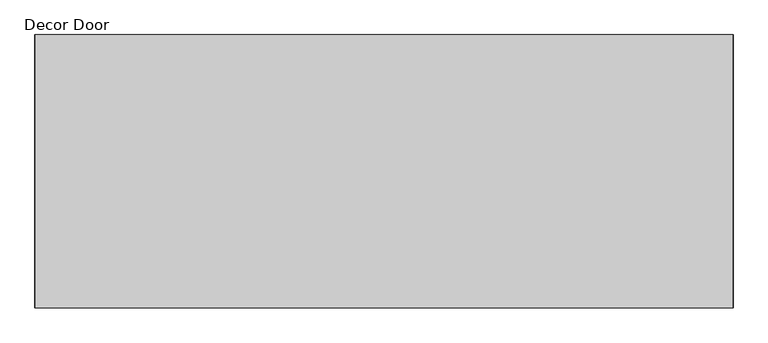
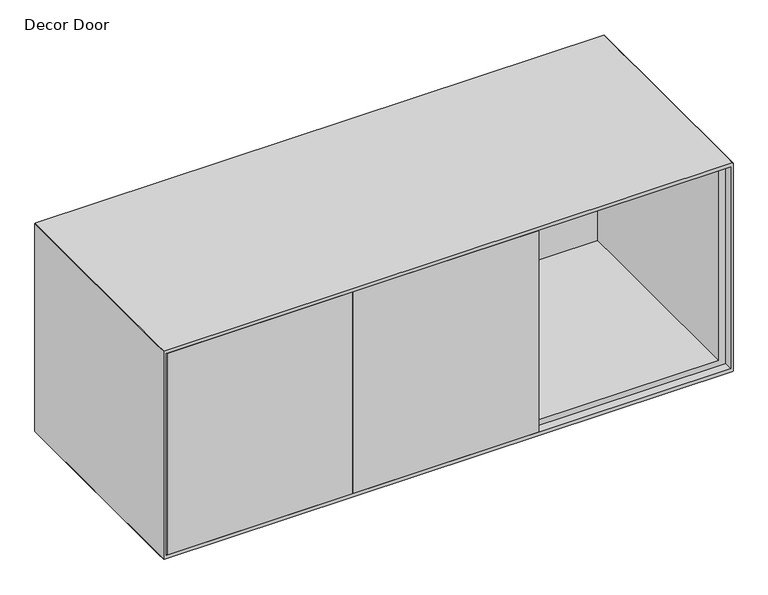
"""IFC4 building model written with IfcOpenShell, lengths in millimetres: furniture geometry, Steelcase EMEA - Volum Art - Cupboard - Credenza - Hinged Door : Decor Door."""

import ifcopenshell
import ifcopenshell.guid

model = None  # the IFC model being written
_history = None  # IfcOwnerHistory: only IFC2X3 demands one
_inside = {}  # id of a spatial element -> (the spatial element, [elements in it])
_under = {}  # id of a project, library or spatial element -> (it, [spatial elements below it])
_declared = {}  # id of a project -> (the project, [libraries it declares])
_typed = {}  # id of a type object -> (the type object, [elements of that type])
_made_of = {}  # id of a material, layer set ... -> (it, [elements and type objects made of it])


def new_model(schema):
    """Start an empty IFC model of exactly this schema.

    Asked for "IFC4X3", IfcOpenShell would pick the latest addendum, in which some entities
    have other attributes; the version numbers below select the first issue.
    IFC2X3 requires an IfcOwnerHistory on every rooted entity: one is made here for all.
    """
    global model, _history
    if schema == "IFC4X3":
        model = ifcopenshell.file(schema_version=(4, 3, 0, 0))
    else:
        model = ifcopenshell.file(schema=schema)
    _inside.clear()
    _under.clear()
    _declared.clear()
    _typed.clear()
    _made_of.clear()
    _history = None
    if model.schema == "IFC2X3":
        org = make("IfcOrganization", Name="unknown")
        user = make(
            "IfcPersonAndOrganization",
            ThePerson=make("IfcPerson", FamilyName="unknown"),
            TheOrganization=org,
        )
        app = make(
            "IfcApplication",
            ApplicationDeveloper=org,
            Version="unknown",
            ApplicationFullName="unknown",
            ApplicationIdentifier="unknown",
        )
        _history = make(
            "IfcOwnerHistory",
            OwningUser=user,
            OwningApplication=app,
            ChangeAction="ADDED",
            CreationDate=0,
        )
    return model


def make(cls, **values):
    """One entity of the class cls with the attributes given. An attribute that is None is left unset."""
    return model.create_entity(
        cls, **{name: value for name, value in values.items() if value is not None}
    )


def rooted(cls, **values):
    """An entity with a GlobalId (a new one), such as an element, a storey or a relation."""
    return make(cls, GlobalId=ifcopenshell.guid.new(), OwnerHistory=_history, **values)


def si_unit(unit_type, name, prefix=None):
    """IfcSIUnit, for example si_unit("LENGTHUNIT", "METRE", prefix="MILLI")."""
    return make("IfcSIUnit", UnitType=unit_type, Prefix=prefix, Name=name)


def assignment(units):
    """IfcUnitAssignment: the units of a project."""
    return None if units is None else make("IfcUnitAssignment", Units=units)


def point(xyz):
    """IfcCartesianPoint."""
    return None if xyz is None else make("IfcCartesianPoint", Coordinates=xyz)


def direction(xyz):
    """IfcDirection."""
    return None if xyz is None else make("IfcDirection", DirectionRatios=xyz)


def frame(location, z_axis=None, x_axis=None):
    """IfcAxis2Placement3D, a coordinate frame: its origin and axes. An axis left out is left unset."""
    return make(
        "IfcAxis2Placement3D",
        Location=point(location),
        Axis=direction(z_axis),
        RefDirection=direction(x_axis),
    )


def origin():
    """The frame at (0, 0, 0) with its axes left unset."""
    return frame((0.0, 0.0, 0.0))


def place(relative_to, where):
    """IfcLocalPlacement: puts the frame where relative to a parent placement (None: the world)."""
    return make(
        "IfcLocalPlacement", PlacementRelTo=relative_to, RelativePlacement=where
    )


def context(
    kind, dimensions, precision=None, world=None, true_north=None, identifier=None
):
    """IfcGeometricRepresentationContext, for example the 3D "Model" context."""
    return make(
        "IfcGeometricRepresentationContext",
        ContextIdentifier=identifier,
        ContextType=kind,
        CoordinateSpaceDimension=dimensions,
        Precision=precision,
        WorldCoordinateSystem=world,
        TrueNorth=true_north,
    )


def project(units=None, contexts=None):
    """IfcProject with its units and contexts."""
    return rooted(
        "IfcProject",
        Name="project",
        RepresentationContexts=contexts,
        UnitsInContext=assignment(units),
    )


def spatial(cls, under=None, at=None, **own):
    """A site, building, storey or space (cls), placed at a placement, below another one or the project."""
    s = rooted(cls, ObjectPlacement=at, **own)
    if under is not None:
        _under.setdefault(under.id(), (under, []))[1].append(s)
    return s


def polyline(points):
    """IfcPolyline through the points."""
    return make("IfcPolyline", Points=[point(p) for p in points])


def circle_curve(where, radius):
    """IfcCircle in the frame where."""
    return make("IfcCircle", Position=where, Radius=radius)


def outline(outer, holes=None, kind="AREA"):
    """IfcArbitraryClosedProfileDef: a profile drawn as a closed curve; with holes, ...WithVoids."""
    if holes is None:
        return make("IfcArbitraryClosedProfileDef", ProfileType=kind, OuterCurve=outer)
    return make(
        "IfcArbitraryProfileDefWithVoids",
        ProfileType=kind,
        OuterCurve=outer,
        InnerCurves=holes,
    )


def extrude(swept, where, along, depth):
    """IfcExtrudedAreaSolid: the profile swept, set in the frame where, extruded along a direction by depth."""
    return make(
        "IfcExtrudedAreaSolid",
        SweptArea=swept,
        Position=where,
        ExtrudedDirection=direction(along),
        Depth=depth,
    )


def shape(context_of_items, identifier, shape_type, items):
    """IfcShapeRepresentation: the items that make up one representation, for example the "Body"."""
    return make(
        "IfcShapeRepresentation",
        ContextOfItems=context_of_items,
        RepresentationIdentifier=identifier,
        RepresentationType=shape_type,
        Items=items,
    )


def source(mapping_origin, context_of_items, identifier, shape_type, items):
    """IfcRepresentationMap: a shape defined once, which mapped items show again and again."""
    return make(
        "IfcRepresentationMap",
        MappingOrigin=mapping_origin,
        MappedRepresentation=shape(context_of_items, identifier, shape_type, items),
    )


def transform(
    local_origin,
    x_axis=None,
    y_axis=None,
    z_axis=None,
    scale=None,
    scale2=None,
    scale3=None,
    uniform=True,
):
    """IfcCartesianTransformationOperator3D, or its non-uniform kind. x_axis, y_axis, z_axis: its Axis1, 2, 3."""
    if uniform:
        return make(
            "IfcCartesianTransformationOperator3D",
            Axis1=direction(x_axis),
            Axis2=direction(y_axis),
            LocalOrigin=point(local_origin),
            Scale=scale,
            Axis3=direction(z_axis),
        )
    return make(
        "IfcCartesianTransformationOperator3DnonUniform",
        Axis1=direction(x_axis),
        Axis2=direction(y_axis),
        LocalOrigin=point(local_origin),
        Scale=scale,
        Axis3=direction(z_axis),
        Scale2=scale2,
        Scale3=scale3,
    )


def mapped(mapping_source, mapping_target):
    """IfcMappedItem: shows the shape of a source again, moved by a transform."""
    return make(
        "IfcMappedItem", MappingSource=mapping_source, MappingTarget=mapping_target
    )


def made_of(thing, what):
    """Note that an element or type object is made of a material, layer set ...; save() writes the relation."""
    if what is not None:
        _made_of.setdefault(what.id(), (what, []))[1].append(thing)
    return thing


def element(
    cls,
    number,
    at=None,
    inside=None,
    cuts=None,
    type_object=None,
    material=None,
    context=None,
    identifier="Body",
    shape_type=None,
    held_by="IfcProductDefinitionShape",
    body=None,
    shapes=None,
    **own,
):
    """One element of the class cls, such as IfcWall. Its Tag is "e" and its number.

    at: its placement. inside: the storey or other place that contains it. cuts: it is an
    opening in that element (IfcRelVoidsElement). A single representation is given by context,
    identifier, shape_type and body (its items); several are given by shapes. held_by: the class
    of the entity that holds the representations. save() writes the other relations.
    """
    e = rooted(cls, Tag="e%d" % number, ObjectPlacement=at, **own)
    if body is not None:
        shapes = [shape(context, identifier, shape_type, body)]
    if shapes is not None:
        e.Representation = make(held_by, Representations=shapes)
    if inside is not None:
        _inside.setdefault(inside.id(), (inside, []))[1].append(e)
    if cuts is not None:
        rooted(
            "IfcRelVoidsElement", RelatingBuildingElement=cuts, RelatedOpeningElement=e
        )
    if type_object is not None:
        _typed.setdefault(type_object.id(), (type_object, []))[1].append(e)
    return made_of(e, material)


def aggregate(whole, parts):
    """IfcRelAggregates: a whole, such as a stair, and the parts it consists of."""
    return rooted("IfcRelAggregates", RelatingObject=whole, RelatedObjects=parts)


def save(model, path):
    """Write the relations noted so far, then the file.

    IfcRelAggregates (storeys below a building ...), IfcRelContainedInSpatialStructure (elements
    in a storey), IfcRelDefinesByType, IfcRelAssociatesMaterial and IfcRelDeclares: one each for
    every whole, place, type object, material and project.
    """
    for whole, parts in _under.values():
        aggregate(whole, parts)
    for where, things in _inside.values():
        rooted(
            "IfcRelContainedInSpatialStructure",
            RelatedElements=things,
            RelatingStructure=where,
        )
    for kind, things in _typed.values():
        rooted("IfcRelDefinesByType", RelatedObjects=things, RelatingType=kind)
    for what, things in _made_of.values():
        rooted("IfcRelAssociatesMaterial", RelatedObjects=things, RelatingMaterial=what)
    for by, libraries in _declared.values():
        rooted("IfcRelDeclares", RelatingContext=by, RelatedDefinitions=libraries)
    model.write(path)


def plane_surface(at):
    """IfcPlane: the flat surface through the origin of the frame at, square to its z axis."""
    return make("IfcPlane", Position=at)


def cylinder_surface(at, radius):
    """IfcCylindricalSurface: all points at the distance radius from the z axis of the frame at."""
    return make("IfcCylindricalSurface", Position=at, Radius=radius)


def revolved_surface(curve, axis_point, axis_direction):
    """IfcSurfaceOfRevolution: the curve turned about the line through axis_point along axis_direction."""
    return make(
        "IfcSurfaceOfRevolution",
        SweptCurve=make("IfcArbitraryOpenProfileDef", ProfileType="CURVE", Curve=curve),
        AxisPosition=make("IfcAxis1Placement", Location=point(axis_point), Axis=direction(axis_direction)),
    )


def advanced_brep(points, edges, surfaces, faces):
    """IfcAdvancedBrep: a solid bounded by faces that lie on surfaces and meet in shared edges.

    An edge is (start, end): straight between two places in points (the first is 0);
    or (start, end, curve); or (start, end, curve, False) where it runs against its curve.
    A face is (place in surfaces, loops), or (place, loops, False) where it looks against
    its surface's normal. A loop lists edges by number (the first is 1), with a minus sign
    where the edge is run from its end to its start. The first loop is the outer one.
    """
    corners = [point(p) for p in points]
    vertices = [make("IfcVertexPoint", VertexGeometry=c) for c in corners]
    made = []
    for start, end, *more in edges:
        made.append(
            make(
                "IfcEdgeCurve",
                EdgeStart=vertices[start],
                EdgeEnd=vertices[end],
                EdgeGeometry=more[0] if more else make("IfcPolyline", Points=[corners[start], corners[end]]),
                SameSense=more[1] if len(more) > 1 else True,
            )
        )
    hull = []
    for where, loops, *sense in faces:
        bounds = []
        for j, loop in enumerate(loops):
            ring = [make("IfcOrientedEdge", EdgeElement=made[abs(k) - 1], Orientation=k > 0) for k in loop]
            bounds.append(
                make(
                    "IfcFaceOuterBound" if j == 0 else "IfcFaceBound",
                    Bound=make("IfcEdgeLoop", EdgeList=ring),
                    Orientation=True,
                )
            )
        hull.append(make("IfcAdvancedFace", Bounds=bounds, FaceSurface=surfaces[where], SameSense=sense[0] if sense else True))
    return make("IfcAdvancedBrep", Outer=make("IfcClosedShell", CfsFaces=hull))


def decor_door_e15c977f(model_context):
    return source(origin(), model_context, "Body", "SolidModel", [
        advanced_brep(
        [(595.0, -216.0000181, 485.7619315), (594.0, -216.0000181, 486.7619315), (-594.0, -216.0000181, 486.7619315), (-595.0, -216.0000181, 485.7619315), (-595.0, -216.0000181, 36.7619315), (595.0, -216.0000181, 36.7619315), (-209.0, -216.0000181, 474.2619315), (-209.0, -216.0000181, 49.2619315), (-580.0, -216.0000181, 49.2619315), (-580.0, -216.0000181, 473.2619315), (-579.0, -216.0000181, 474.2619315), (580.0, -216.0000181, 49.2619315), (190.0, -216.0000181, 49.2619315), (190.0, -216.0000181, 474.2619315), (579.0, -216.0000181, 474.2619315), (580.0, -216.0000181, 473.2619315), (-190.0, -216.0000181, 49.2619315), (-190.0, -216.0000181, 474.2619315), (167.9816873, -216.0000181, 474.2619315), (167.9816873, -216.0000181, 49.2619315), (599.0, 235.0, 494.26), (600.0, 235.0, 493.26), (600.0, 235.0, 30.2619315), (599.0, 235.0, 29.2619315), (-599.0, 235.0, 29.2619315), (-600.0, 235.0, 30.2619315), (-600.0, 235.0, 493.26), (-599.0, 235.0, 494.26), (-599.0, -216.0000181, 494.26), (-599.0, -235.0, 494.26), (599.0, -235.0, 494.26), (599.0, -216.0000181, 494.26), (-600.0, -216.0000181, 493.26), (-600.0, -216.0000181, 30.2619315), (-600.0, -235.0, 30.2619315), (-600.0, -235.0, 493.26), (-599.0, -216.0000181, 29.2619315), (599.0, -216.0000181, 29.2619315), (599.0, -235.0, 29.2619315), (-599.0, -235.0, 29.2619315), (600.0, -216.0000181, 30.2619315), (600.0, -216.0000181, 493.26), (600.0, -235.0, 493.26), (600.0, -235.0, 30.2619315), (579.0, 224.9999927, 474.2619315), (580.0, 224.9999927, 473.2619315), (580.0, 224.9999927, 49.2619315), (-209.0, 224.9999927, 49.2619315), (-580.0, 224.9999927, 49.2619315), (-580.0, 224.9999927, 473.2619315), (-579.0, 224.9999927, 474.2619315), (-209.0, 224.9999927, 474.2619315), (190.0, 224.9999927, 49.2619315), (190.0, 224.9999927, 474.2619315), (-190.0, 224.9999927, 49.2619315), (-190.0, 224.9999927, 474.2619315), (167.9816873, 224.9999927, 474.2619315), (167.9816873, 224.9999927, 49.2619315), (594.0, -235.0, 486.7619315), (595.0, -235.0, 485.7619315), (595.0, -235.0, 36.7619315), (-595.0, -235.0, 36.7619315), (-595.0, -235.0, 485.7619315), (-594.0, -235.0, 486.7619315)],
        [
            (0, 1, circle_curve(frame((594.0, -216.0000181, 485.7619315), z_axis=(0.0, -1.0, 0.0), x_axis=(1.0, 0.0, 0.0)), 1.0)),
            (1, 2),
            (2, 3, circle_curve(frame((-594.0, -216.0000181, 485.7619315), z_axis=(0.0, -1.0, 0.0), x_axis=(1.0, 0.0, 0.0)), 1.0)),
            (3, 4),
            (4, 5),
            (5, 0),
            (6, 7),
            (7, 8),
            (8, 9),
            (9, 10, circle_curve(frame((-579.0, -216.0000181, 473.2619315), z_axis=(0.0, 1.0, 0.0), x_axis=(1.0, 0.0, 0.0)), 1.0)),
            (10, 6),
            (11, 12),
            (12, 13),
            (13, 14),
            (14, 15, circle_curve(frame((579.0, -216.0000181, 473.2619315), z_axis=(0.0, 1.0, 0.0), x_axis=(1.0, 0.0, 0.0)), 1.0)),
            (15, 11),
            (16, 17),
            (17, 18),
            (18, 19),
            (19, 16),
            (20, 21, circle_curve(frame((599.0, 235.0, 493.26), z_axis=(0.0, 1.0, 0.0), x_axis=(1.0, 0.0, 0.0)), 1.0)),
            (21, 22),
            (22, 23, circle_curve(frame((599.0, 235.0, 30.2619315), z_axis=(0.0, 1.0, 0.0), x_axis=(1.0, 0.0, 0.0)), 1.0)),
            (23, 24),
            (24, 25, circle_curve(frame((-599.0, 235.0, 30.2619315), z_axis=(0.0, 1.0, 0.0), x_axis=(1.0, 0.0, 0.0)), 1.0)),
            (25, 26),
            (26, 27, circle_curve(frame((-599.0, 235.0, 493.26), z_axis=(0.0, 1.0, 0.0), x_axis=(1.0, 0.0, 0.0)), 1.0)),
            (27, 20),
            (27, 28),
            (28, 29),
            (29, 30),
            (30, 31),
            (31, 20),
            (26, 32),
            (32, 28, circle_curve(frame((-599.0, -216.0000181, 493.26), z_axis=(0.0, 1.0, 0.0), x_axis=(1.0, 0.0, 0.0)), 1.0)),
            (25, 33),
            (33, 34),
            (34, 35),
            (35, 32),
            (24, 36),
            (36, 33, circle_curve(frame((-599.0, -216.0000181, 30.2619315), z_axis=(0.0, 1.0, 0.0), x_axis=(1.0, 0.0, 0.0)), 1.0)),
            (23, 37),
            (37, 38),
            (38, 39),
            (39, 36),
            (22, 40),
            (40, 37, circle_curve(frame((599.0, -216.0000181, 30.2619315), z_axis=(0.0, 1.0, 0.0), x_axis=(1.0, 0.0, 0.0)), 1.0)),
            (21, 41),
            (41, 42),
            (42, 43),
            (43, 40),
            (31, 41, circle_curve(frame((599.0, -216.0000181, 493.26), z_axis=(0.0, 1.0, 0.0), x_axis=(1.0, 0.0, 0.0)), 1.0)),
            (14, 44),
            (44, 45, circle_curve(frame((579.0, 224.9999927, 473.2619315), z_axis=(0.0, 1.0, 0.0), x_axis=(1.0, 0.0, 0.0)), 1.0)),
            (45, 15),
            (45, 46),
            (46, 11),
            (7, 47),
            (47, 48),
            (48, 8),
            (48, 49),
            (49, 9),
            (49, 50, circle_curve(frame((-579.0, 224.9999927, 473.2619315), z_axis=(0.0, 1.0, 0.0), x_axis=(1.0, 0.0, 0.0)), 1.0)),
            (50, 10),
            (50, 51),
            (51, 6),
            (51, 47),
            (46, 52),
            (52, 12),
            (52, 53),
            (53, 13),
            (53, 44),
            (16, 54),
            (54, 55),
            (55, 17),
            (55, 56),
            (56, 18),
            (56, 57),
            (57, 19),
            (57, 54),
            (29, 35, circle_curve(frame((-599.0, -235.0, 493.26), z_axis=(0.0, -1.0, 0.0), x_axis=(1.0, 0.0, 0.0)), 1.0)),
            (34, 39, circle_curve(frame((-599.0, -235.0, 30.2619315), z_axis=(0.0, -1.0, 0.0), x_axis=(1.0, 0.0, 0.0)), 1.0)),
            (38, 43, circle_curve(frame((599.0, -235.0, 30.2619315), z_axis=(0.0, -1.0, 0.0), x_axis=(1.0, 0.0, 0.0)), 1.0)),
            (42, 30, circle_curve(frame((599.0, -235.0, 493.26), z_axis=(0.0, -1.0, 0.0), x_axis=(1.0, 0.0, 0.0)), 1.0)),
            (58, 59, circle_curve(frame((594.0, -235.0, 485.7619315), z_axis=(0.0, 1.0, 0.0), x_axis=(1.0, 0.0, 0.0)), 1.0)),
            (59, 60),
            (60, 61),
            (61, 62),
            (62, 63, circle_curve(frame((-594.0, -235.0, 485.7619315), z_axis=(0.0, 1.0, 0.0), x_axis=(1.0, 0.0, 0.0)), 1.0)),
            (63, 58),
            (58, 1),
            (0, 59),
            (5, 60),
            (4, 61),
            (3, 62),
            (2, 63),
        ],
        [
            plane_surface(frame((-599.0, -216.0000181, 494.26), z_axis=(0.0, -1.0, 0.0), x_axis=(-1.0, 0.0, 0.0))),
            plane_surface(frame((-599.0, 235.0, 494.26), z_axis=(0.0, 1.0, 0.0), x_axis=(1.0, 0.0, 0.0))),
            plane_surface(frame((599.0, -216.0000181, 494.26), z_axis=(0.0, 0.0, 1.0), x_axis=(0.0, 1.0, 0.0))),
            cylinder_surface(frame((-599.0, 235.0, 493.26), z_axis=(0.0, -1.0, 0.0), x_axis=(1.0, 0.0, 0.0)), 1.0),
            plane_surface(frame((-600.0, -216.0000181, 493.26), z_axis=(-1.0, 0.0, 0.0), x_axis=(0.0, 1.0, 0.0))),
            cylinder_surface(frame((-599.0, 235.0, 30.2619315), z_axis=(0.0, -1.0, 0.0), x_axis=(1.0, 0.0, 0.0)), 1.0),
            plane_surface(frame((-599.0, -216.0000181, 29.2619315), z_axis=(0.0, 0.0, -1.0), x_axis=(0.0, 1.0, 0.0))),
            cylinder_surface(frame((599.0, 235.0, 30.2619315), z_axis=(0.0, -1.0, 0.0), x_axis=(1.0, 0.0, 0.0)), 1.0),
            plane_surface(frame((600.0, -216.0000181, 30.2619315), z_axis=(1.0, 0.0, 0.0), x_axis=(0.0, 1.0, 0.0))),
            cylinder_surface(frame((599.0, 235.0, 493.26), z_axis=(0.0, -1.0, 0.0), x_axis=(1.0, 0.0, 0.0)), 1.0),
            revolved_surface(polyline([(580.0, 224.9999927, 473.2619315), (580.0, -216.0000181, 473.2619315)]), (579.0, 0.0, 473.2619315), (0.0, 1.0, 0.0)),
            plane_surface(frame((580.0, -216.0000181, 473.2619315), z_axis=(-1.0, 0.0, 0.0), x_axis=(0.0, 1.0, 0.0))),
            plane_surface(frame((-209.0, -216.0000181, 49.2619315), z_axis=(0.0, 0.0, 1.0), x_axis=(0.0, 1.0, 0.0))),
            plane_surface(frame((-580.0, -216.0000181, 49.2619315), z_axis=(1.0, 0.0, 0.0), x_axis=(0.0, 1.0, 0.0))),
            revolved_surface(polyline([(-578.0, 224.9999927, 473.2619315), (-578.0, -216.0000181, 473.2619315)]), (-579.0, 0.0, 473.2619315), (0.0, 1.0, 0.0)),
            plane_surface(frame((-579.0, -216.0000181, 474.2619315), z_axis=(0.0, 0.0, -1.0), x_axis=(0.0, 1.0, 0.0))),
            plane_surface(frame((-209.0, -216.0000181, 474.2619315), z_axis=(-1.0, 0.0, 0.0), x_axis=(0.0, 1.0, 0.0))),
            plane_surface(frame((580.0, -216.0000181, 49.2619315), z_axis=(0.0, 0.0, 1.0), x_axis=(0.0, 1.0, 0.0))),
            plane_surface(frame((190.0, -216.0000181, 49.2619315), z_axis=(1.0, 0.0, 0.0), x_axis=(0.0, 1.0, 0.0))),
            plane_surface(frame((190.0, -216.0000181, 474.2619315), z_axis=(0.0, 0.0, -1.0), x_axis=(0.0, 1.0, 0.0))),
            plane_surface(frame((-190.0, -216.0000181, 49.2619315), z_axis=(1.0, 0.0, 0.0), x_axis=(0.0, 1.0, 0.0))),
            plane_surface(frame((-190.0, -216.0000181, 474.2619315), z_axis=(0.0, 0.0, -1.0), x_axis=(0.0, 1.0, 0.0))),
            plane_surface(frame((167.9816873, -216.0000181, 474.2619315), z_axis=(-1.0, 0.0, 0.0), x_axis=(0.0, 1.0, 0.0))),
            plane_surface(frame((167.9816873, -216.0000181, 49.2619315), z_axis=(0.0, 0.0, 1.0), x_axis=(0.0, 1.0, 0.0))),
            plane_surface(frame((-599.0, -235.0, 494.26), z_axis=(0.0, -1.0, 0.0), x_axis=(-1.0, 0.0, 0.0))),
            cylinder_surface(frame((-599.0, -216.0000181, 493.26), z_axis=(0.0, -1.0, 0.0), x_axis=(1.0, 0.0, 0.0)), 1.0),
            cylinder_surface(frame((-599.0, -216.0000181, 30.2619315), z_axis=(0.0, -1.0, 0.0), x_axis=(1.0, 0.0, 0.0)), 1.0),
            cylinder_surface(frame((599.0, -216.0000181, 30.2619315), z_axis=(0.0, -1.0, 0.0), x_axis=(1.0, 0.0, 0.0)), 1.0),
            cylinder_surface(frame((599.0, -216.0000181, 493.26), z_axis=(0.0, -1.0, 0.0), x_axis=(1.0, 0.0, 0.0)), 1.0),
            revolved_surface(polyline([(595.0, -216.0000181, 485.7619315), (595.0, -235.0, 485.7619315)]), (594.0, 0.0, 485.7619315), (0.0, 1.0, 0.0)),
            plane_surface(frame((595.0, -235.0, 485.7619315), z_axis=(-1.0, 0.0, 0.0), x_axis=(0.0, 1.0, 0.0))),
            plane_surface(frame((595.0, -235.0, 36.7619315), z_axis=(0.0, 0.0, 1.0), x_axis=(0.0, 1.0, 0.0))),
            plane_surface(frame((-595.0, -235.0, 36.7619315), z_axis=(1.0, 0.0, 0.0), x_axis=(0.0, 1.0, 0.0))),
            revolved_surface(polyline([(-593.0, -216.0000181, 485.7619315), (-593.0, -235.0, 485.7619315)]), (-594.0, 0.0, 485.7619315), (0.0, 1.0, 0.0)),
            plane_surface(frame((-594.0, -235.0, 486.7619315), z_axis=(0.0, 0.0, -1.0), x_axis=(0.0, 1.0, 0.0))),
            plane_surface(frame((595.0, 224.9999927, 473.2619315), z_axis=(0.0, -1.0, 0.0), x_axis=(0.0, 0.0, 1.0))),
        ],
        [
            (0, [[1, 2, 3, 4, 5, 6], [7, 8, 9, 10, 11], [12, 13, 14, 15, 16], [17, 18, 19, 20]]),
            (1, [[21, 22, 23, 24, 25, 26, 27, 28]]),
            (2, [[-28, 29, 30, 31, 32, 33]]),
            (3, [[-27, 34, 35, -29]]),
            (4, [[-26, 36, 37, 38, 39, -34]]),
            (5, [[-25, 40, 41, -36]]),
            (6, [[-24, 42, 43, 44, 45, -40]]),
            (7, [[-23, 46, 47, -42]]),
            (8, [[-22, 48, 49, 50, 51, -46]]),
            (9, [[-21, -33, 52, -48]]),
            (10, [[-15, 53, 54, 55]]),
            (11, [[-16, -55, 56, 57]]),
            (12, [[-8, 58, 59, 60]]),
            (13, [[-9, -60, 61, 62]]),
            (14, [[-10, -62, 63, 64]]),
            (15, [[-11, -64, 65, 66]]),
            (16, [[-7, -66, 67, -58]]),
            (17, [[-12, -57, 68, 69]]),
            (18, [[-13, -69, 70, 71]]),
            (19, [[-14, -71, 72, -53]]),
            (20, [[-17, 73, 74, 75]]),
            (21, [[-18, -75, 76, 77]]),
            (22, [[-19, -77, 78, 79]]),
            (23, [[-20, -79, 80, -73]]),
            (24, [[-31, 81, -38, 82, -44, 83, -50, 84], [85, 86, 87, 88, 89, 90]]),
            (25, [[-81, -30, -35, -39]]),
            (26, [[-82, -37, -41, -45]]),
            (27, [[-83, -43, -47, -51]]),
            (28, [[-84, -49, -52, -32]]),
            (29, [[-85, 91, -1, 92]]),
            (30, [[-86, -92, -6, 93]]),
            (31, [[-87, -93, -5, 94]]),
            (32, [[-88, -94, -4, 95]]),
            (33, [[-89, -95, -3, 96]]),
            (34, [[-90, -96, -2, -91]]),
            (35, [[-54, -72, -70, -68, -56]]),
            (35, [[-59, -67, -65, -63, -61]]),
            (35, [[-74, -80, -78, -76]]),
        ],
    ),
        extrude(outline(polyline([(-202.5, -235.0), (-592.5, -235.0), (-592.5, -216.0000181), (-202.5, -216.0000181), (-202.5, -235.0)])), frame((0.0, 0.0, 36.7619315), z_axis=(0.0, 0.0, 1.0), x_axis=(1.0, 0.0, 0.0)), (0.0, 0.0, 1.0), 450.0),
        extrude(outline(polyline([(-200.0, -235.0), (-200.0, -216.0000181), (190.0, -216.0000181), (190.0, -235.0), (-200.0, -235.0)])), frame((0.0, 0.0, 36.7619315), z_axis=(0.0, 0.0, 1.0), x_axis=(1.0, 0.0, 0.0)), (0.0, 0.0, 1.0), 450.0),
    ])


if __name__ == "__main__":
    model = new_model("IFC4")
    model_context = context("Model", 3, world=origin())
    ifc_project = project(units=[si_unit("LENGTHUNIT", "METRE", prefix="MILLI")], contexts=[model_context])
    site = spatial("IfcSite", under=ifc_project)
    building = spatial("IfcBuilding", under=site)
    placement = place(None, origin())
    decor_door_shape = decor_door_e15c977f(model_context)
    element("IfcFurniture", 1, ObjectType="Steelcase EMEA - Volum Art - Cupboard - Credenza - Hinged Door : Decor Door", at=placement, inside=building, context=model_context, shape_type="MappedRepresentation", body=[
        mapped(decor_door_shape, transform((0.0, 0.0, 0.0), x_axis=(1.0, 0.0, 0.0), y_axis=(0.0, 1.0, 0.0), z_axis=(0.0, 0.0, 1.0))),
    ])
    save(model, "model.ifc")
